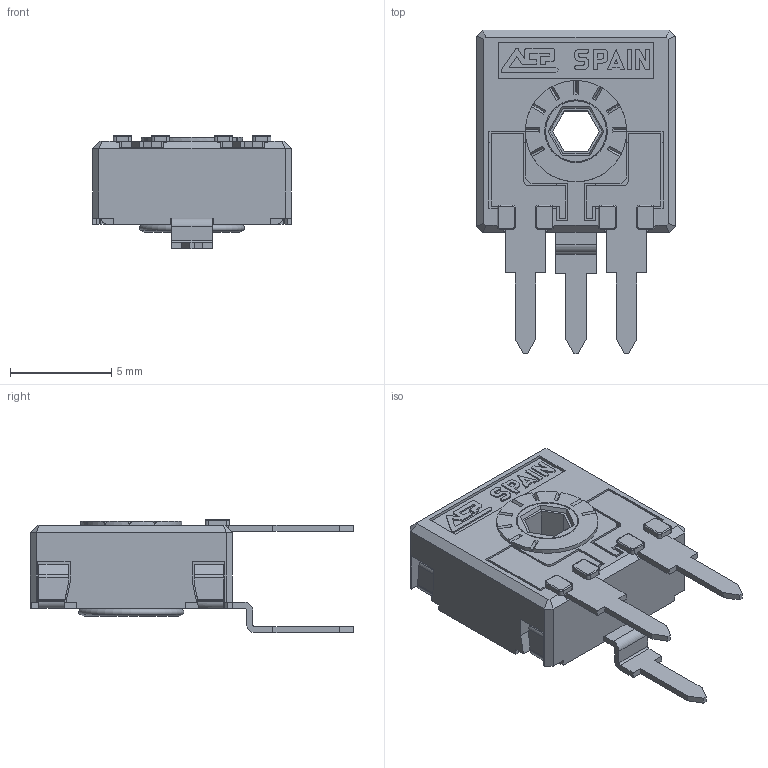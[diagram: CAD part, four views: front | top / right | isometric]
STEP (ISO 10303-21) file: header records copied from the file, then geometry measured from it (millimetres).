
FILE_DESCRIPTION(/* description */ (''),/* implementation_level */ '2;1');
FILE_NAME(/* name */ 'COMCA9MH5.stp',/* time_stamp */ '2026-03-30T17:17:55+02:00',/* author */ ('CEM'),/* organization */ (''),/* preprocessor_version */ 'ST-DEVELOPER v20.1',/* originating_system */ 'Autodesk Inventor 2026',/* authorisation */ '');
FILE_SCHEMA (('AUTOMOTIVE_DESIGN { 1 0 10303 214 3 1 1 }'));
Length unit declared in the file: millimetre
Products named in the file (1): COMCA9MH5
Bounding box: 9.8 x 16 x 5.6 mm (x, y, z)
Volume: 240.7 mm3; surface area: 833 mm2
Topology: 2 solids, 2 shells, 603 faces, 1702 edges, 1087 vertices
Faces by surface type: plane 479, cylinder 83, torus 19, cone 16, bspline 6
Full cylindrical faces by diameter (mm): 3 x1, 3.1 x1, 4 x1, 4.8 x1, 5 x1
Entity records: 19582 total; most frequent: CARTESIAN_POINT 3601, ORIENTED_EDGE 3404, DIRECTION 3132, EDGE_CURVE 1702, LINE 1392, VECTOR 1392, VERTEX_POINT 1087, AXIS2_PLACEMENT_3D 870
